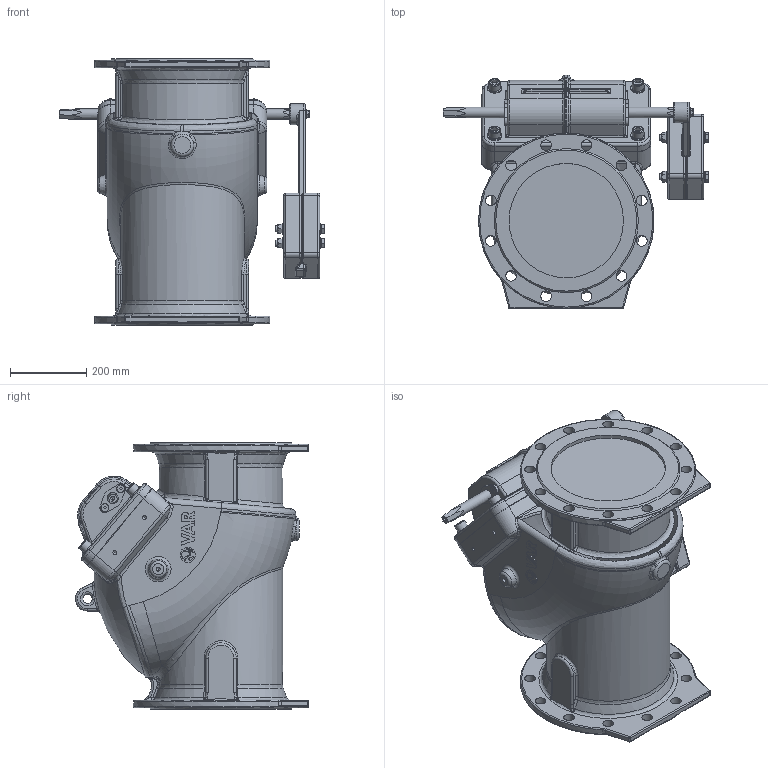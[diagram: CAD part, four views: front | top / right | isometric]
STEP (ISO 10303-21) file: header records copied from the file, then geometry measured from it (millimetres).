
FILE_DESCRIPTION(('STEP AP203'), '1');
FILE_NAME('VAR LIMU-STOP Îáðàòíûé êëàïàí DN 300 PN 16 c ðû÷àãîì è ïðîòèâîâåñîì', '2026-06-28T08:29:10', (' '), (' '), 'C3D Converter', 'C3D Toolkit', '');
FILE_SCHEMA(('CONFIG_CONTROL_DESIGN'));
Length unit declared in the file: millimetre
Products named in the file (1): Admi0C102497dm9t
Bounding box: 696 x 611.96 x 700 mm (x, y, z)
Volume: 103188668.7 mm3; surface area: 1992268.9 mm2
Topology: 1 solids, 15 shells, 1286 faces, 3216 edges, 1978 vertices
Faces by surface type: plane 390, cylinder 308, bspline 207, extrusion 172, torus 112, cone 62, sphere 35
Full cylindrical faces by diameter (mm): 10 x4, 10.106 x8, 11 x4, 11.053 x1, 13 x1, 16 x8, 17 x4, 17.2 x1, 20 x8, 21 x4, 22.5 x2, 24 x1, 25 x1, 28 x26, 29 x2, 30 x8, 37 x4, 39.885 x1, 55 x1, 300 x2, 460 x2
Entity records: 78501 total; most frequent: CARTESIAN_POINT 41558, ORIENTED_EDGE 5962, DIRECTION 4772, EDGE_CURVE 2981, VERTEX_POINT 1943, AXIS2_PLACEMENT_3D 1751, EDGE_LOOP 1584, FACE_BOUND 1433
